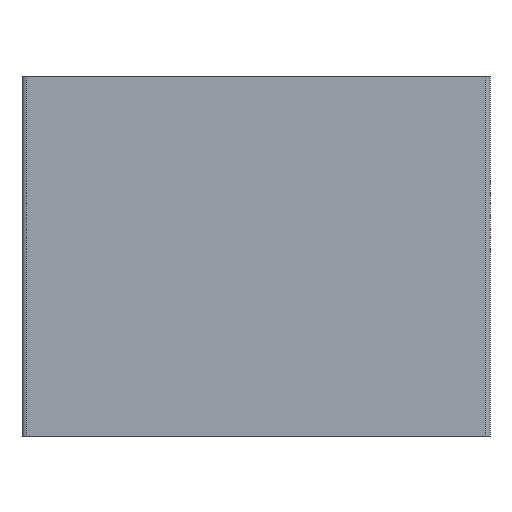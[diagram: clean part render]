
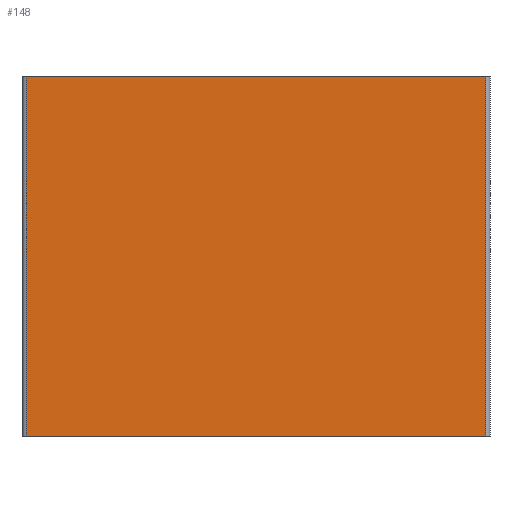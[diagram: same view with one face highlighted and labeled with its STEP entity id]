
A CAD part, front view. The second image highlights one B-rep face of the part: STEP entity #148.
In plain terms, the highlighted planar face has unit normal (0, -1, 0).
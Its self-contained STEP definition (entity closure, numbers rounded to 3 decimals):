
#25 = VERTEX_POINT ( 'NONE', #422 ) ;
#41 = EDGE_CURVE ( 'NONE', #25, #3058, #536, .T. ) ;
#130 = EDGE_CURVE ( 'NONE', #25, #221, #1274, .T. ) ;
#148 = ADVANCED_FACE ( 'NONE', ( #1400 ), #1401, .F. ) ;
#207 = VERTEX_POINT ( 'NONE', #1616 ) ;
#221 = VERTEX_POINT ( 'NONE', #1674 ) ;
#422 = CARTESIAN_POINT ( 'NONE',  ( -31.9, 0., 50. ) ) ;
#536 = LINE ( 'NONE', #537, #538 ) ;
#537 = CARTESIAN_POINT ( 'NONE',  ( -31.9, 0., 50. ) ) ;
#538 = VECTOR ( 'NONE', #539, 1000. ) ;
#539 = DIRECTION ( 'NONE',  ( 0., 0., -1. ) ) ;
#834 = CARTESIAN_POINT ( 'NONE',  ( -31.9, 0., 0. ) ) ;
#998 = EDGE_LOOP ( 'NONE', ( #2510, #1992, #1867, #3048 ) ) ;
#1274 = LINE ( 'NONE', #1275, #1276 ) ;
#1275 = CARTESIAN_POINT ( 'NONE',  ( 31.9, 0., 50. ) ) ;
#1276 = VECTOR ( 'NONE', #1277, 1000. ) ;
#1277 = DIRECTION ( 'NONE',  ( 1., 0., 0. ) ) ;
#1400 = FACE_OUTER_BOUND ( 'NONE', #998, .T. ) ;
#1401 = PLANE ( 'NONE',  #1402 ) ;
#1402 = AXIS2_PLACEMENT_3D ( 'NONE', #1403, #1404, #1405 ) ;
#1403 = CARTESIAN_POINT ( 'NONE',  ( 31.9, 0., 50. ) ) ;
#1404 = DIRECTION ( 'NONE',  ( 0., 1., 0. ) ) ;
#1405 = DIRECTION ( 'NONE',  ( 0., 0., 1. ) ) ;
#1415 = EDGE_CURVE ( 'NONE', #3058, #207, #2214, .T. ) ;
#1545 = EDGE_CURVE ( 'NONE', #221, #207, #2278, .T. ) ;
#1616 = CARTESIAN_POINT ( 'NONE',  ( 31.9, 0., 0. ) ) ;
#1674 = CARTESIAN_POINT ( 'NONE',  ( 31.9, 0., 50. ) ) ;
#1867 = ORIENTED_EDGE ( 'NONE', *, *, #130, .F. ) ;
#1992 = ORIENTED_EDGE ( 'NONE', *, *, #1545, .F. ) ;
#2214 = LINE ( 'NONE', #2215, #2216 ) ;
#2215 = CARTESIAN_POINT ( 'NONE',  ( 31.9, 0., 0. ) ) ;
#2216 = VECTOR ( 'NONE', #2217, 1000. ) ;
#2217 = DIRECTION ( 'NONE',  ( 1., 0., 0. ) ) ;
#2278 = LINE ( 'NONE', #2279, #2280 ) ;
#2279 = CARTESIAN_POINT ( 'NONE',  ( 31.9, 0., 50. ) ) ;
#2280 = VECTOR ( 'NONE', #2281, 1000. ) ;
#2281 = DIRECTION ( 'NONE',  ( 0., 0., -1. ) ) ;
#2510 = ORIENTED_EDGE ( 'NONE', *, *, #1415, .T. ) ;
#3048 = ORIENTED_EDGE ( 'NONE', *, *, #41, .T. ) ;
#3058 = VERTEX_POINT ( 'NONE', #834 ) ;
